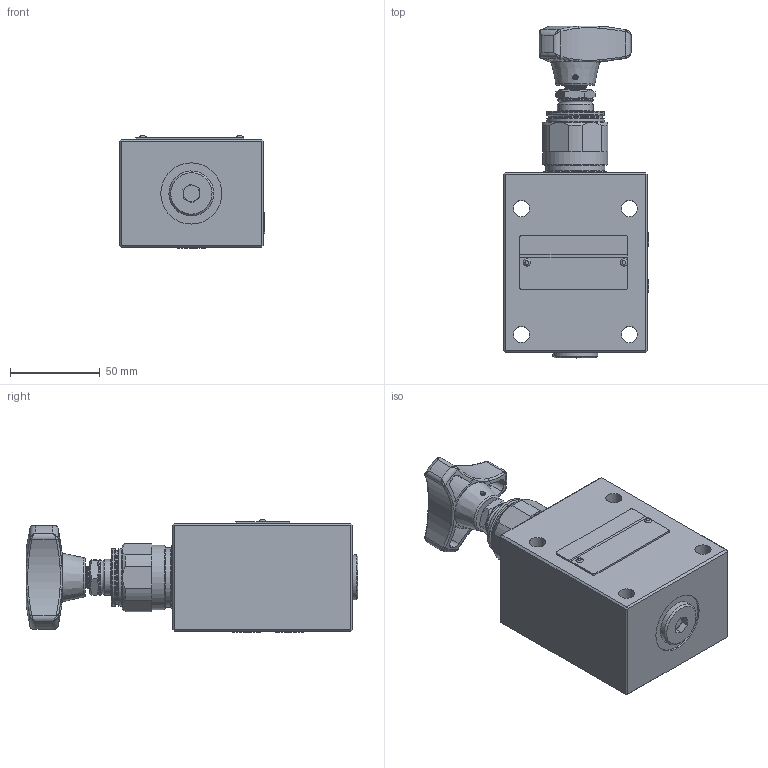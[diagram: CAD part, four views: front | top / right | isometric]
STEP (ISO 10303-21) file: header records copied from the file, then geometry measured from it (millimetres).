
FILE_DESCRIPTION(/* description */ (''),/* implementation_level */ '2;1');
FILE_NAME(/* name */ 'DBDH10P-1XJ直动型板式溢流阀.prt.stp',/* time_stamp */ '2022-03-30T20:13:54+08:00',/* author */ (''),/* organization */ (''),/* preprocessor_version */ 'ST-DEVELOPER v16.7',/* originating_system */ 'SIEMENS PLM Software NX 12.0',/* authorisation */ '');
FILE_SCHEMA (('AUTOMOTIVE_DESIGN { 1 0 10303 214 3 1 1 1 }'));
Length unit declared in the file: millimetre
Products named in the file (1): DBDH10P-1XJ直动型板式溢流阀
Bounding box: 80.7 x 184.5 x 62.41 mm (x, y, z)
Volume: 569928.5 mm3; surface area: 91845.3 mm2
Topology: 20 solids, 21 shells, 587 faces, 1377 edges, 836 vertices
Faces by surface type: plane 298, cylinder 144, bspline 58, cone 52, torus 27, extrusion 8
Full cylindrical faces by diameter (mm): 1 x1, 1.8 x2, 1.9 x4, 3 x2, 3.1 x2, 4.5 x4, 5.5 x4, 5.7 x1, 6 x2, 6.2 x1, 9 x5, 10 x6, 13 x2, 16.7 x2, 19.7 x1, 20 x1, 21.3 x1, 22.5 x2, 24.8 x1, 25 x1, 27.3 x2, 28 x3, 30 x2, 30.025 x1, 31 x1, 31.5 x1, 32 x5, 32.9 x1, 33.5 x11, 34 x1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
Entity records: 28652 total; most frequent: CARTESIAN_POINT 16799, ORIENTED_EDGE 2328, DIRECTION 2234, EDGE_CURVE 1164, AXIS2_PLACEMENT_3D 891, VERTEX_POINT 775, EDGE_LOOP 744, ADVANCED_FACE 576
